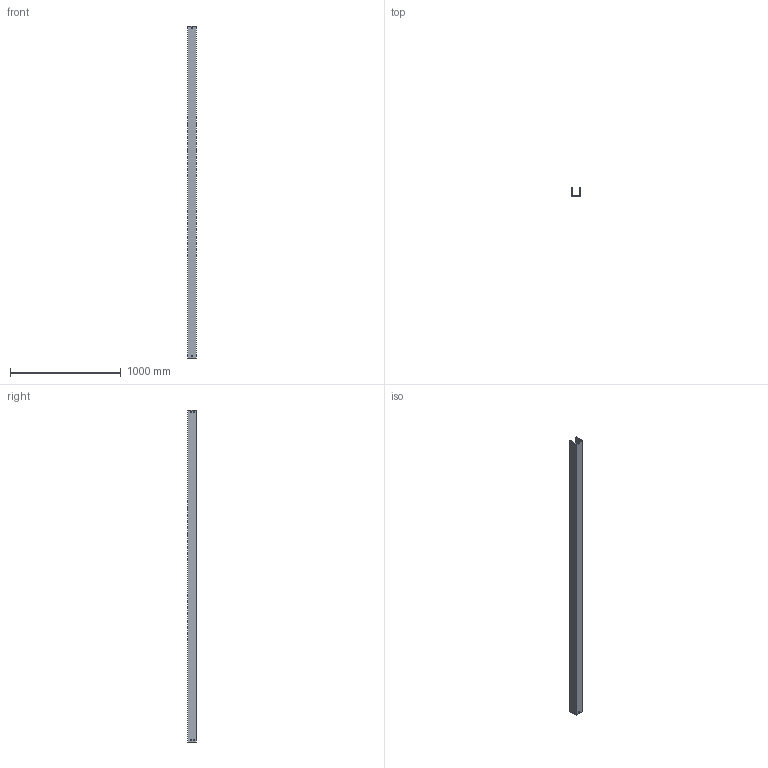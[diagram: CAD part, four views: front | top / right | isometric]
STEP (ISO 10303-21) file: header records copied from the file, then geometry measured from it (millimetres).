
FILE_DESCRIPTION (( 'STEP AP214' ), '1' );
FILE_NAME ('03F3C075.step', '2025-02-21T13:32:08', ( '' ), ( '' ), 'SwSTEP 2.0', 'SolidWorks 2023', '' );
FILE_SCHEMA (( 'AUTOMOTIVE_DESIGN' ));
Length unit declared in the file: millimetre
Products named in the file (1): 03F3C075
Bounding box: 79 x 79 x 3000 mm (x, y, z)
Volume: 2412630.5 mm3; surface area: 1402425 mm2
Topology: 1 solids, 1 shells, 50 faces, 144 edges, 96 vertices
Faces by surface type: plane 50
Entity records: 1671 total; most frequent: CARTESIAN_POINT 291, ORIENTED_EDGE 288, DIRECTION 246, LINE 144, EDGE_CURVE 144, VECTOR 144, VERTEX_POINT 96, EDGE_LOOP 70
